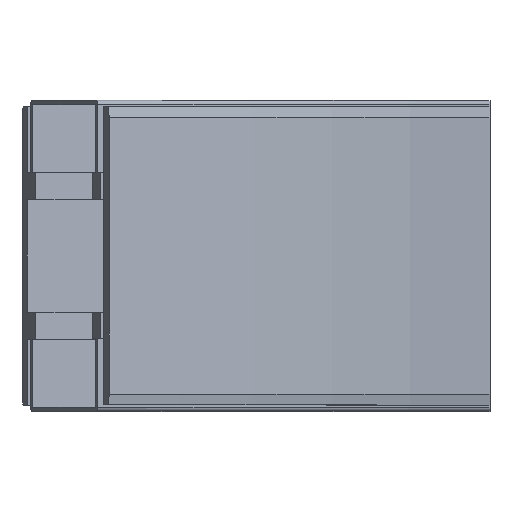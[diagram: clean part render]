
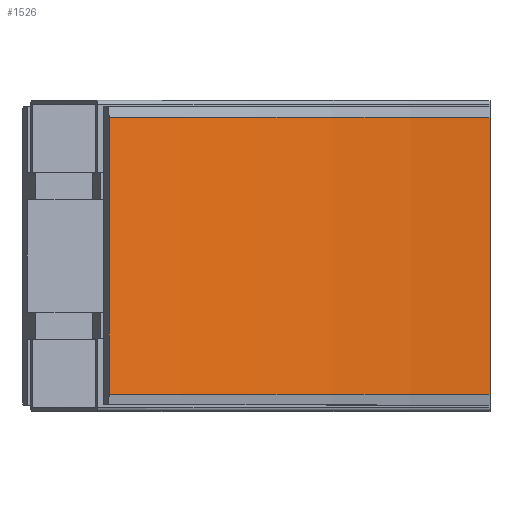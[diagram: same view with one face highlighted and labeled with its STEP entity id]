
A CAD part, top view. The second image highlights one B-rep face of the part: STEP entity #1526.
In plain terms, the highlighted cylindrical face has radius 357.5 mm (diameter 715 mm), a partial arc.
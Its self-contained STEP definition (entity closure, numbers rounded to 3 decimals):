
#80=CYLINDRICAL_SURFACE('',#1643,357.5);
#149=FACE_OUTER_BOUND('',#236,.T.);
#236=EDGE_LOOP('',(#1052,#1053,#1054,#1055));
#323=CIRCLE('',#1633,357.5);
#328=CIRCLE('',#1642,357.5);
#400=LINE('',#2215,#526);
#401=LINE('',#2216,#527);
#526=VECTOR('',#1808,10.);
#527=VECTOR('',#1809,10.);
#643=VERTEX_POINT('',#2183);
#644=VERTEX_POINT('',#2185);
#652=VERTEX_POINT('',#2209);
#653=VERTEX_POINT('',#2211);
#799=EDGE_CURVE('',#643,#644,#323,.T.);
#813=EDGE_CURVE('',#652,#653,#328,.T.);
#814=EDGE_CURVE('',#643,#652,#400,.T.);
#815=EDGE_CURVE('',#644,#653,#401,.T.);
#1052=ORIENTED_EDGE('',*,*,#814,.T.);
#1053=ORIENTED_EDGE('',*,*,#813,.T.);
#1054=ORIENTED_EDGE('',*,*,#815,.F.);
#1055=ORIENTED_EDGE('',*,*,#799,.F.);
#1526=ADVANCED_FACE('',(#149),#80,.F.);
#1633=AXIS2_PLACEMENT_3D('',#2186,#1777,#1778);
#1642=AXIS2_PLACEMENT_3D('',#2213,#1804,#1805);
#1643=AXIS2_PLACEMENT_3D('',#2214,#1806,#1807);
#1777=DIRECTION('center_axis',(0.,1.,0.));
#1778=DIRECTION('ref_axis',(0.,0.,-1.));
#1804=DIRECTION('center_axis',(0.,1.,0.));
#1805=DIRECTION('ref_axis',(0.,0.,-1.));
#1806=DIRECTION('center_axis',(0.,1.,0.));
#1807=DIRECTION('ref_axis',(0.,0.,-1.));
#1808=DIRECTION('',(0.,1.,0.));
#1809=DIRECTION('',(0.,1.,0.));
#2183=CARTESIAN_POINT('',(0.,-65.,42.5));
#2185=CARTESIAN_POINT('',(-178.75,-65.,90.396));
#2186=CARTESIAN_POINT('Origin',(0.,-65.,400.));
#2209=CARTESIAN_POINT('',(0.,65.,42.5));
#2211=CARTESIAN_POINT('',(-178.75,65.,90.396));
#2213=CARTESIAN_POINT('Origin',(0.,65.,400.));
#2214=CARTESIAN_POINT('Origin',(0.,0.,400.));
#2215=CARTESIAN_POINT('',(0.,-65.,42.5));
#2216=CARTESIAN_POINT('',(-178.75,-65.,90.396));
